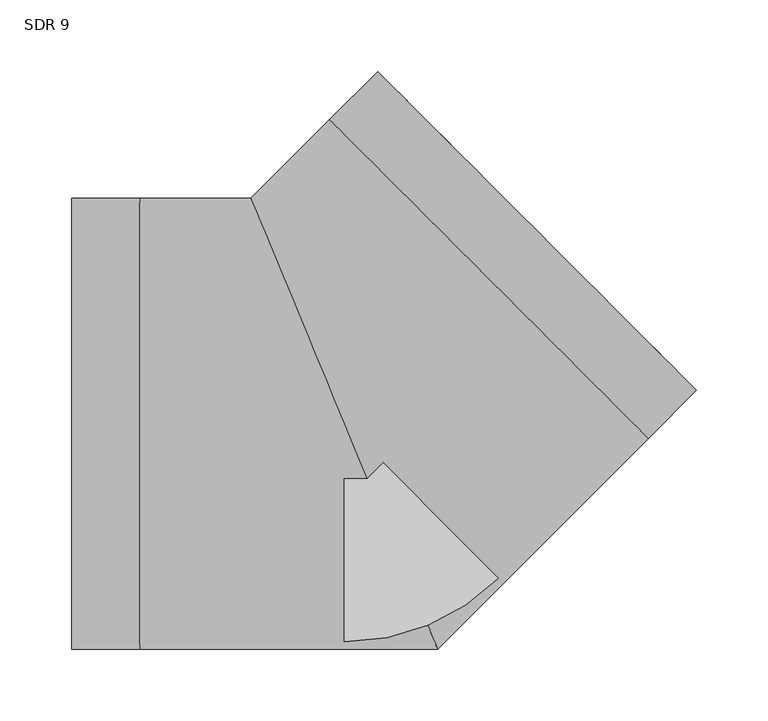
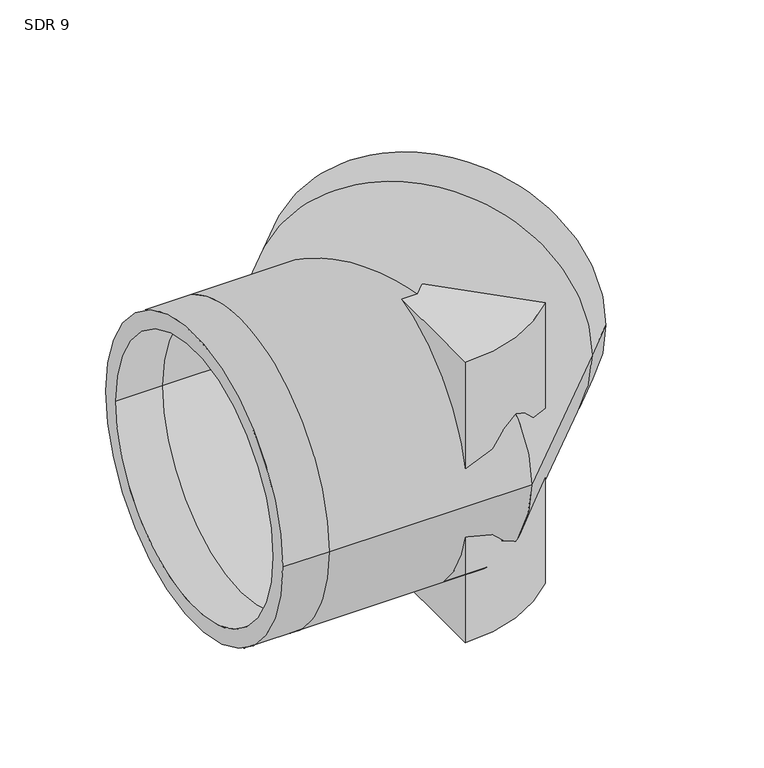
"""IFC4 building model written with IfcOpenShell, lengths in millimetres: pipe fitting geometry, Aquatherm - Elbow Blue BW Segmented : SDR 9."""

from ifc_helpers import new_model, si_unit, point, frame, origin, origin_with_axes, origin_2d, place, context, project, spatial, polyline, circle_curve, ellipse_curve, trimmed, segment, composite_curve, outline, extrude, source, transform, mapped, element, save
from ifc_brep_helpers import plane_surface, cylinder_surface, revolved_surface, advanced_brep


def sdr_9_fef63fe1(model_context):
    return source(origin(), model_context, "Body", "SolidModel", [
        extrude(outline(composite_curve([segment(polyline([(0.0, -152.4), (0.0, 0.0), (107.7630735, -107.7630735)]), True, "CONTINUOUS"), segment(trimmed(circle_curve(origin_2d(), 152.4), [point((107.7630735, -107.7630735))], [point((0.0, -152.4))], False, "CARTESIAN"), True, "CONTINUOUS")], self_intersect=False)), frame((0.0, 0.0, -152.4), z_axis=(0.0, 0.0, 1.0), x_axis=(1.0, 0.0, 0.0)), (0.0, 0.0, 1.0), 152.4),
        extrude(outline(composite_curve([segment(trimmed(circle_curve(origin_2d(), 152.4), [point((107.7630735, -107.7630735))], [point((0.0, -152.4))], False, "CARTESIAN"), True, "CONTINUOUS"), segment(polyline([(0.0, -152.4), (0.0, 0.0), (107.7630735, -107.7630735)]), True, "CONTINUOUS")], self_intersect=False)), origin_with_axes(), (0.0, 0.0, 1.0), 152.4),
        advanced_brep(
        [(-190.5, -157.48, 0.0), (-190.5, 157.48, 0.0), (-190.5, -139.586134, 0.0), (-190.5, 139.586134, 0.0), (246.0590177, 23.3486659, 0.0), (23.3486659, 246.0590177, 0.0), (233.4061438, 36.0015399, 0.0), (36.0015399, 233.4061438, 0.0), (-142.875, -157.48, 0.0), (-142.875, 157.48, 0.0), (-142.875, -139.586134, 0.0), (-142.875, 139.586134, 0.0), (65.2303518, -157.48, 0.0), (-65.2303518, 157.48, 0.0), (57.8184698, -139.586134, 0.0), (-57.8184698, 139.586134, 0.0), (212.3830573, -10.3272945, 0.0), (-10.3272945, 212.3830573, 0.0), (199.7301833, 2.3255794, 0.0), (2.3255794, 199.7301833, 0.0)],
        [
            (0, 1, circle_curve(frame((-190.5, 0.0, 0.0), z_axis=(-1.0, 0.0, 0.0), x_axis=(0.0, 1.0, 0.0)), 157.48)),
            (1, 0, circle_curve(frame((-190.5, 0.0, 0.0), z_axis=(-1.0, 0.0, 0.0), x_axis=(0.0, 1.0, 0.0)), 157.48)),
            (2, 3, circle_curve(frame((-190.5, 0.0, 0.0), z_axis=(1.0, 0.0, 0.0), x_axis=(0.0, 1.0, 0.0)), 139.586134)),
            (3, 2, circle_curve(frame((-190.5, 0.0, 0.0), z_axis=(1.0, 0.0, 0.0), x_axis=(0.0, 1.0, 0.0)), 139.586134)),
            (4, 5, circle_curve(frame((134.7038418, 134.7038418, 0.0), z_axis=(0.7071067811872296, 0.7071067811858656, 0.0), x_axis=(-0.7071067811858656, 0.7071067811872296, 0.0)), 157.48)),
            (5, 4, circle_curve(frame((134.7038418, 134.7038418, 0.0), z_axis=(0.7071067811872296, 0.7071067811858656, 0.0), x_axis=(-0.7071067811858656, 0.7071067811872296, 0.0)), 157.48)),
            (6, 7, circle_curve(frame((134.7038418, 134.7038418, 0.0), z_axis=(-0.7071067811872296, -0.7071067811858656, 0.0), x_axis=(-0.7071067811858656, 0.7071067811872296, 0.0)), 139.586134)),
            (7, 6, circle_curve(frame((134.7038418, 134.7038418, 0.0), z_axis=(-0.7071067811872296, -0.7071067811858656, 0.0), x_axis=(-0.7071067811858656, 0.7071067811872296, 0.0)), 139.586134)),
            (0, 8),
            (8, 9, circle_curve(frame((-142.875, 0.0, 0.0), z_axis=(-1.0, 0.0, 0.0), x_axis=(0.0, 1.0, 0.0)), 157.48)),
            (9, 1),
            (9, 8, circle_curve(frame((-142.875, 0.0, 0.0), z_axis=(-1.0, 0.0, 0.0), x_axis=(0.0, 1.0, 0.0)), 157.48)),
            (2, 10),
            (10, 11, circle_curve(frame((-142.875, 0.0, 0.0), z_axis=(1.0, 0.0, 0.0), x_axis=(0.0, 1.0, 0.0)), 139.586134)),
            (11, 3),
            (11, 10, circle_curve(frame((-142.875, 0.0, 0.0), z_axis=(1.0, 0.0, 0.0), x_axis=(0.0, 1.0, 0.0)), 139.586134)),
            (8, 12),
            (12, 13, ellipse_curve(frame((0.0, 0.0, 0.0), z_axis=(-0.9238795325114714, -0.38268343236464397, 0.0), x_axis=(-0.38268343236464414, 0.9238795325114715, 0.0)), 170.4551237, 157.48)),
            (13, 9),
            (13, 12, ellipse_curve(frame((0.0, 0.0, 0.0), z_axis=(-0.9238795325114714, -0.38268343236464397, 0.0), x_axis=(-0.38268343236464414, 0.9238795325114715, 0.0)), 170.4551237, 157.48)),
            (10, 14),
            (14, 15, ellipse_curve(frame((0.0, 0.0, 0.0), z_axis=(0.9238795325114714, 0.38268343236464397, 0.0), x_axis=(0.38268343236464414, -0.9238795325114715, 0.0)), 151.0869428, 139.586134)),
            (15, 11),
            (15, 14, ellipse_curve(frame((0.0, 0.0, 0.0), z_axis=(0.9238795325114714, 0.38268343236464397, 0.0), x_axis=(0.38268343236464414, -0.9238795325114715, 0.0)), 151.0869428, 139.586134)),
            (12, 16),
            (16, 17, circle_curve(frame((101.0278814, 101.0278814, 0.0), z_axis=(-0.7071067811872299, -0.7071067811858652, 0.0), x_axis=(-0.7071067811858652, 0.7071067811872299, 0.0)), 157.48)),
            (17, 13),
            (17, 16, circle_curve(frame((101.0278814, 101.0278814, 0.0), z_axis=(-0.7071067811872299, -0.7071067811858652, 0.0), x_axis=(-0.7071067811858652, 0.7071067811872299, 0.0)), 157.48)),
            (14, 18),
            (18, 19, circle_curve(frame((101.0278814, 101.0278814, 0.0), z_axis=(0.7071067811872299, 0.7071067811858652, 0.0), x_axis=(-0.7071067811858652, 0.7071067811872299, 0.0)), 139.586134)),
            (19, 15),
            (19, 18, circle_curve(frame((101.0278814, 101.0278814, 0.0), z_axis=(0.7071067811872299, 0.7071067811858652, 0.0), x_axis=(-0.7071067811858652, 0.7071067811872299, 0.0)), 139.586134)),
            (16, 4),
            (5, 17),
            (18, 6),
            (7, 19),
        ],
        [
            plane_surface(frame((-190.5, 0.0, 0.0), z_axis=(-1.0, 0.0, 0.0), x_axis=(0.0, 0.0, 1.0))),
            plane_surface(frame((134.7038418, 134.7038418, 0.0), z_axis=(0.7071067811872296, 0.7071067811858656, 0.0), x_axis=(0.0, 0.0, 1.0))),
            cylinder_surface(frame((-190.5, 0.0, 0.0), z_axis=(-1.0, 0.0, 0.0), x_axis=(0.0, 1.0, 0.0)), 157.48),
            revolved_surface(polyline([(-142.875, 139.586134, 0.0), (-190.5, 139.586134, 0.0)]), (-190.5, 0.0, 0.0), (1.0, 0.0, 0.0)),
            cylinder_surface(frame((-142.875, 0.0, 0.0), z_axis=(-1.0, 0.0, 0.0), x_axis=(0.0, 1.0, 0.0)), 157.48),
            revolved_surface(polyline([(57.81846985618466, 139.586134, 0.0), (-142.875, 139.586134, 0.0)]), (-142.875, 0.0, 0.0), (1.0, 0.0, 0.0)),
            cylinder_surface(frame((0.0, 0.0, 0.0), z_axis=(-0.7071067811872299, -0.7071067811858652, 0.0), x_axis=(-0.7071067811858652, 0.7071067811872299, 0.0)), 157.48),
            revolved_surface(polyline([(2.3255794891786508, 199.73018331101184, 0.0), (-139.58613402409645, 57.818469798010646, 0.0)]), (0.0, 0.0, 0.0), (0.7071067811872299, 0.7071067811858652, 0.0)),
            cylinder_surface(frame((101.0278814, 101.0278814, 0.0), z_axis=(-0.7071067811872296, -0.7071067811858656, 0.0), x_axis=(-0.7071067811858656, 0.7071067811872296, 0.0)), 157.48),
            revolved_surface(polyline([(36.00153993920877, 233.40614376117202, 0.0), (2.325579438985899, 199.7301832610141, 0.0)]), (101.0278814, 101.0278814, 0.0), (0.7071067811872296, 0.7071067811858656, 0.0)),
        ],
        [
            (0, [[1, 2], [3, 4]]),
            (1, [[5, 6], [7, 8]]),
            (2, [[-1, 9, 10, 11]]),
            (2, [[-2, -11, 12, -9]]),
            (3, [[-3, 13, 14, 15]]),
            (3, [[-4, -15, 16, -13]]),
            (4, [[-10, 17, 18, 19]]),
            (4, [[-12, -19, 20, -17]]),
            (5, [[-14, 21, 22, 23]]),
            (5, [[-16, -23, 24, -21]]),
            (6, [[-18, 25, 26, 27]]),
            (6, [[-20, -27, 28, -25]]),
            (7, [[-22, 29, 30, 31]]),
            (7, [[-24, -31, 32, -29]]),
            (8, [[-26, 33, -6, 34]]),
            (8, [[-28, -34, -5, -33]]),
            (9, [[-30, 35, -8, 36]]),
            (9, [[-32, -36, -7, -35]]),
        ],
    ),
    ])


if __name__ == "__main__":
    model = new_model("IFC4")
    model_context = context("Model", 3, world=origin())
    ifc_project = project(units=[si_unit("LENGTHUNIT", "METRE", prefix="MILLI")], contexts=[model_context])
    site = spatial("IfcSite", under=ifc_project)
    building = spatial("IfcBuilding", under=site)
    placement = place(None, origin())
    sdr_9_shape = sdr_9_fef63fe1(model_context)
    element("IfcPipeFitting", 1, ObjectType="Aquatherm - Elbow Blue BW Segmented : SDR 9", at=placement, inside=building, context=model_context, shape_type="MappedRepresentation", body=[
        mapped(sdr_9_shape, transform((0.0, 0.0, 0.0), x_axis=(1.0, 0.0, 0.0), y_axis=(0.0, 1.0, 0.0), z_axis=(0.0, 0.0, 1.0))),
    ])
    save(model, "model.ifc")
